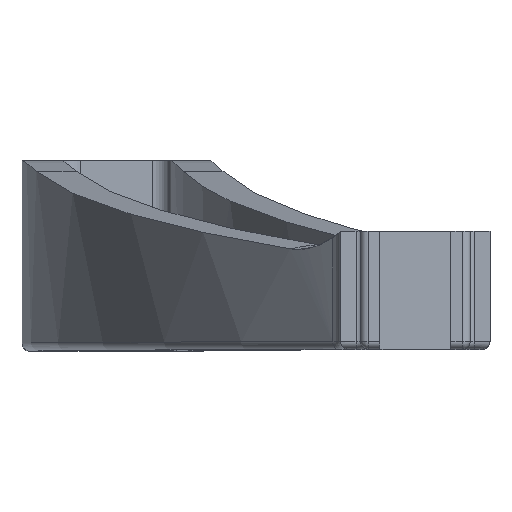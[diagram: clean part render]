
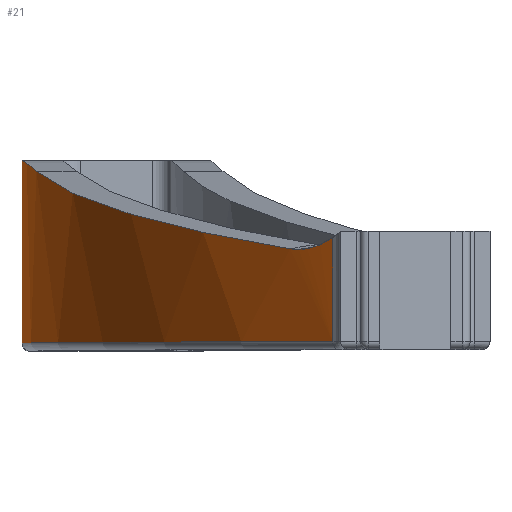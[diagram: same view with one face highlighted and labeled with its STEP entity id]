
A CAD part, top view. The second image highlights one B-rep face of the part: STEP entity #21.
In plain terms, the highlighted cylindrical face has radius 132.732 mm (diameter 265.464 mm), a partial arc.
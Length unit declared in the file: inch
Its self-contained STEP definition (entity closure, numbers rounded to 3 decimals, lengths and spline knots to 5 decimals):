
#21 = ADVANCED_FACE ( 'NONE', ( #1484 ), #1642, .T. ) ;
#49 = VERTEX_POINT ( 'NONE', #806 ) ;
#72 = CARTESIAN_POINT ( 'NONE',  ( 4.75421, 0.03937, 0.11811 ) ) ;
#177 = CARTESIAN_POINT ( 'NONE',  ( 4.75421, 0.95276, 0.11811 ) ) ;
#222 = EDGE_CURVE ( 'NONE', #1742, #3124, #1369, .T. ) ;
#324 = VERTEX_POINT ( 'NONE', #1214 ) ;
#334 = ORIENTED_EDGE ( 'NONE', *, *, #348, .T. ) ;
#348 = EDGE_CURVE ( 'NONE', #1157, #324, #631, .T. ) ;
#393 = DIRECTION ( 'NONE',  ( 0., 1., 0. ) ) ;
#409 = CARTESIAN_POINT ( 'NONE',  ( 0.20232, 0.61557, 2.87312 ) ) ;
#413 = CARTESIAN_POINT ( 'NONE',  ( -0.44005, 0.9342, 0.74112 ) ) ;
#419 = DIRECTION ( 'NONE',  ( 0., 1., 0. ) ) ;
#516 = DIRECTION ( 'NONE',  ( 0., 0., -1. ) ) ;
#631 = LINE ( 'NONE', #2679, #2959 ) ;
#653 = ORIENTED_EDGE ( 'NONE', *, *, #2796, .T. ) ;
#708 =( BOUNDED_CURVE ( )  B_SPLINE_CURVE ( 3, ( #1149, #409, #3156, #2178 ),
 .UNSPECIFIED., .F., .T. ) 
 B_SPLINE_CURVE_WITH_KNOTS ( ( 4, 4 ),
 ( 0.83725, 1.40424 ),
 .UNSPECIFIED. ) 
 CURVE ( )  GEOMETRIC_REPRESENTATION_ITEM ( )  RATIONAL_B_SPLINE_CURVE ( ( 1., 0.973, 0.973, 1. ) ) 
 REPRESENTATION_ITEM ( '' )  );
#724 = VERTEX_POINT ( 'NONE', #2918 ) ;
#736 = CARTESIAN_POINT ( 'NONE',  ( 1.01587, 0.52154, 3.76955 ) ) ;
#756 = CARTESIAN_POINT ( 'NONE',  ( 1.06844, 0.54839, 3.8226 ) ) ;
#806 = CARTESIAN_POINT ( 'NONE',  ( 1.08534, 0.03937, 3.83926 ) ) ;
#889 = CIRCLE ( 'NONE', #2284, 5.22566 ) ;
#975 = CARTESIAN_POINT ( 'NONE',  ( -0.47146, 0.95276, 0.11811 ) ) ;
#983 = CARTESIAN_POINT ( 'NONE',  ( 0.94386, 0.5006, 3.69464 ) ) ;
#1149 = CARTESIAN_POINT ( 'NONE',  ( 0.87256, 0.50444, 3.61673 ) ) ;
#1157 = VERTEX_POINT ( 'NONE', #975 ) ;
#1209 = CARTESIAN_POINT ( 'NONE',  ( 1.05117, 0.53832, 3.80535 ) ) ;
#1214 = CARTESIAN_POINT ( 'NONE',  ( -0.47146, 0.03937, 0.11811 ) ) ;
#1222 = CARTESIAN_POINT ( 'NONE',  ( 0.90812, 0.49854, 3.65619 ) ) ;
#1369 = B_SPLINE_CURVE_WITH_KNOTS ( 'NONE', 3,
 ( #2161, #413, #2429, #3151 ),
 .UNSPECIFIED., .F., .F.,
 ( 4, 4 ),
 ( 0., 0.01891 ),
 .UNSPECIFIED. ) ;
#1477 = CARTESIAN_POINT ( 'NONE',  ( 0.87256, 0.50444, 3.61673 ) ) ;
#1484 = FACE_OUTER_BOUND ( 'NONE', #1796, .T. ) ;
#1616 = ORIENTED_EDGE ( 'NONE', *, *, #2741, .F. ) ;
#1642 = CYLINDRICAL_SURFACE ( 'NONE', #2232, 5.22566 ) ;
#1738 = CARTESIAN_POINT ( 'NONE',  ( 1.08534, 0.56, 3.83926 ) ) ;
#1742 = VERTEX_POINT ( 'NONE', #1899 ) ;
#1747 = CARTESIAN_POINT ( 'NONE',  ( 4.75421, 0.47244, 0.11811 ) ) ;
#1778 = VECTOR ( 'NONE', #393, 39.37008 ) ;
#1796 = EDGE_LOOP ( 'NONE', ( #334, #2940, #2621, #653, #2163, #2711, #1616 ) ) ;
#1833 = DIRECTION ( 'NONE',  ( 0., 0., -1. ) ) ;
#1878 = EDGE_CURVE ( 'NONE', #324, #49, #3106, .T. ) ;
#1899 = CARTESIAN_POINT ( 'NONE',  ( -0.39914, 0.89784, 0.98447 ) ) ;
#2009 = B_SPLINE_CURVE_WITH_KNOTS ( 'NONE', 3,
 ( #1738, #756, #1209, #736, #2965, #983, #1222, #1477 ),
 .UNSPECIFIED., .F., .F.,
 ( 4, 2, 2, 4 ),
 ( 0.0016, 0.00361, 0.00562, 0.00965 ),
 .UNSPECIFIED. ) ;
#2021 = DIRECTION ( 'NONE',  ( 0., -1., 0. ) ) ;
#2038 = CARTESIAN_POINT ( 'NONE',  ( 1.08534, 0.56, 3.83926 ) ) ;
#2136 = CARTESIAN_POINT ( 'NONE',  ( 1.08534, 0.47244, 3.83926 ) ) ;
#2161 = CARTESIAN_POINT ( 'NONE',  ( -0.39914, 0.89784, 0.98447 ) ) ;
#2163 = ORIENTED_EDGE ( 'NONE', *, *, #2729, .T. ) ;
#2178 = CARTESIAN_POINT ( 'NONE',  ( -0.39914, 0.89784, 0.98447 ) ) ;
#2232 = AXIS2_PLACEMENT_3D ( 'NONE', #1747, #2021, #516 ) ;
#2284 = AXIS2_PLACEMENT_3D ( 'NONE', #177, #419, #2423 ) ;
#2331 = CARTESIAN_POINT ( 'NONE',  ( -0.46991, 0.95276, 0.24542 ) ) ;
#2423 = DIRECTION ( 'NONE',  ( 0., 0., -1. ) ) ;
#2429 = CARTESIAN_POINT ( 'NONE',  ( -0.46383, 0.95276, 0.49481 ) ) ;
#2467 = VERTEX_POINT ( 'NONE', #2038 ) ;
#2621 = ORIENTED_EDGE ( 'NONE', *, *, #3217, .T. ) ;
#2625 = AXIS2_PLACEMENT_3D ( 'NONE', #72, #3091, #1833 ) ;
#2679 = CARTESIAN_POINT ( 'NONE',  ( -0.47146, 0.47244, 0.11811 ) ) ;
#2711 = ORIENTED_EDGE ( 'NONE', *, *, #222, .T. ) ;
#2729 = EDGE_CURVE ( 'NONE', #724, #1742, #708, .T. ) ;
#2741 = EDGE_CURVE ( 'NONE', #1157, #3124, #889, .T. ) ;
#2796 = EDGE_CURVE ( 'NONE', #2467, #724, #2009, .T. ) ;
#2824 = LINE ( 'NONE', #2136, #1778 ) ;
#2918 = CARTESIAN_POINT ( 'NONE',  ( 0.87256, 0.50444, 3.61673 ) ) ;
#2940 = ORIENTED_EDGE ( 'NONE', *, *, #1878, .T. ) ;
#2959 = VECTOR ( 'NONE', #2969, 39.37008 ) ;
#2965 = CARTESIAN_POINT ( 'NONE',  ( 0.99774, 0.51484, 3.75091 ) ) ;
#2969 = DIRECTION ( 'NONE',  ( 0., -1., 0. ) ) ;
#3091 = DIRECTION ( 'NONE',  ( 0., 1., 0. ) ) ;
#3106 = CIRCLE ( 'NONE', #2625, 5.22566 ) ;
#3124 = VERTEX_POINT ( 'NONE', #2331 ) ;
#3151 = CARTESIAN_POINT ( 'NONE',  ( -0.46991, 0.95276, 0.24542 ) ) ;
#3156 = CARTESIAN_POINT ( 'NONE',  ( -0.23317, 0.75029, 1.97171 ) ) ;
#3217 = EDGE_CURVE ( 'NONE', #49, #2467, #2824, .T. ) ;
